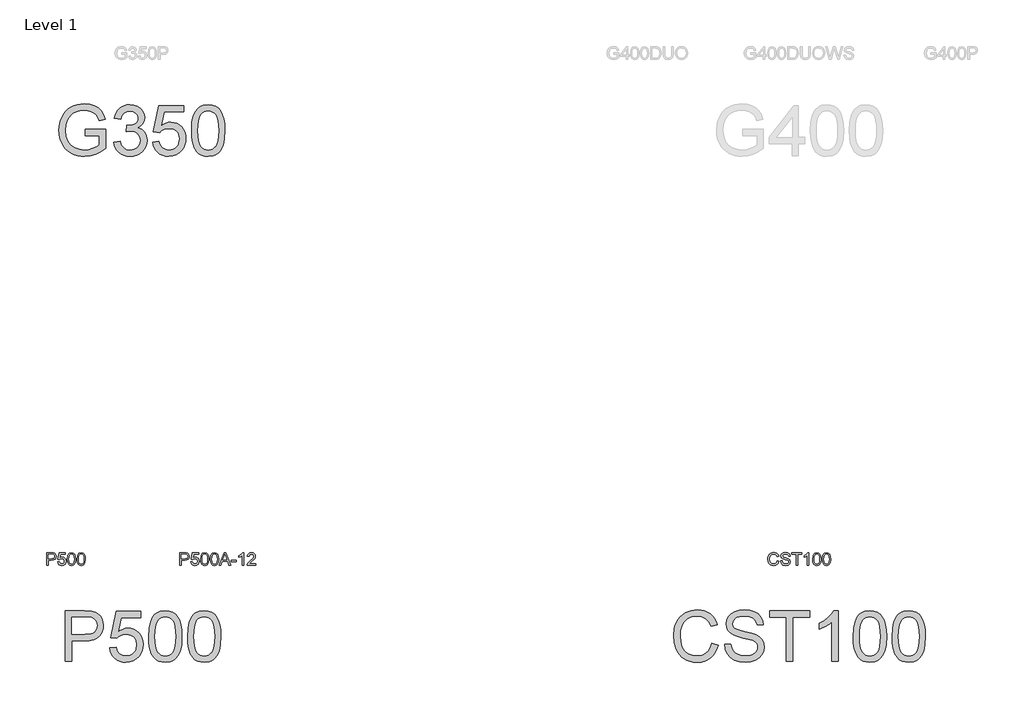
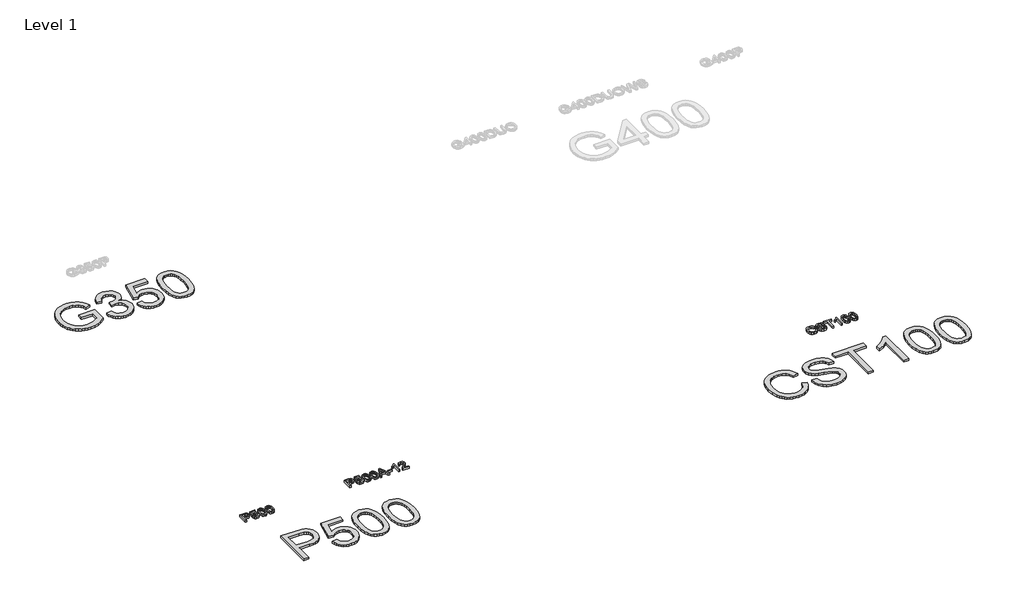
# One storey, part 3 of 5: 6 proxies.
"""IFC4 building model written with IfcOpenShell, lengths in millimetres."""

from ifc_helpers import new_model, si_unit, origin, origin_with_axes, place, context, project, spatial, polyline, outline, extrude, element, save

model = new_model("IFC4")

# Units and contexts
model_context = context("Model", 3, world=origin())
ifc_project = project(units=[si_unit("LENGTHUNIT", "METRE", prefix="MILLI")], contexts=[model_context])

# Site, building, storey
site = spatial("IfcSite", under=ifc_project)
building = spatial("IfcBuilding", under=site)
storey = spatial("IfcBuildingStorey", under=building, Name="Level 1", Elevation=0.0)

# Proxies
placement = place(None, origin())
element("IfcBuildingElementProxy", 1, Name="100mm Arial", ObjectType="100mm Arial", at=placement, inside=storey, context=model_context, shape_type="SweptSolid", body=[
    extrude(outline(polyline([(139.8337019, -11918.2513572), (139.8337019, -11817.795047), (177.0633598, -11817.795047), (192.0729452, -11818.7515402), (204.2743647, -11823.448167), (212.1838276, -11833.1602517), (215.1759345, -11846.8577247), (213.1556492, -11858.6973935), (207.0947934, -11868.5627624), (195.7609622, -11875.2214265), (177.9217511, -11877.4409812), (152.3907407, -11877.4409812), (152.3907407, -11918.2513572), (139.8337019, -11918.2513572)]), holes=[polyline([(152.3907407, -11864.8839424), (178.6575151, -11864.8839424), (197.1497168, -11860.2731548), (201.251601, -11854.724268), (202.6188958, -11847.2991831), (199.3937969, -11836.9003853), (190.9202483, -11831.2104771), (178.3632095, -11830.3520858), (152.3907407, -11830.3520858), (152.3907407, -11864.8839424)])]), origin_with_axes(), (0.0, 0.0, 1.0), 20.0),
    extrude(outline(polyline([(227.7329733, -11891.5676498), (240.2900121, -11889.99802), (246.6175824, -11902.9352035), (259.7387069, -11907.2639483), (268.739553, -11905.7586978), (275.4840563, -11901.2429463), (279.6963051, -11894.23786), (281.1003881, -11885.264605), (275.8396755, -11870.3531214), (269.233128, -11866.2512372), (259.9349106, -11864.8839424), (248.9107135, -11867.0667089), (241.8596419, -11872.7320917), (229.3026031, -11871.1624618), (240.2900121, -11819.3646769), (288.9485373, -11819.3646769), (288.9485373, -11831.9217157), (250.4435551, -11831.9217157), (245.072478, -11859.5864417), (254.0426673, -11854.1417882), (263.4420523, -11852.3269037), (275.1744222, -11854.5771152), (284.9140981, -11861.3277498), (291.4715946, -11871.6161829), (293.6574268, -11884.47979), (291.6892582, -11897.0368288), (285.7847521, -11907.7789831), (274.4785121, -11916.810486), (259.6896559, -11919.820987), (247.356412, -11917.8865409), (237.5308971, -11912.0832024), (230.7955909, -11903.0854219), (227.7329733, -11891.5676498)])), origin_with_axes(), (0.0, 0.0, 1.0), 20.0),
    extrude(outline(polyline([(304.6448357, -11868.8325425), (308.3359184, -11839.9292804), (319.2988019, -11823.264226), (337.6070625, -11817.795047), (352.2732914, -11821.0324086), (362.402309, -11830.3643485), (368.2884209, -11845.2267811), (370.5692893, -11868.8325425), (366.9149948, -11897.6131773), (355.9888995, -11914.3150198), (347.7575399, -11918.4444952), (337.6070625, -11919.820987), (324.5595144, -11917.4297541), (314.651226, -11910.2560552), (307.1464333, -11893.2660384), (304.6448357, -11868.8325425)]), holes=[polyline([(317.2018745, -11868.808017), (318.6734025, -11888.5602145), (323.0879864, -11899.9921475), (329.6608114, -11905.4459981), (337.6070625, -11907.2639483), (345.5533136, -11905.4398667), (352.1261386, -11899.967622), (356.5407225, -11888.5295577), (358.0122505, -11868.808017), (356.5897735, -11849.5003437), (352.3223423, -11837.9795058), (345.7617801, -11832.2589408), (337.4599097, -11830.3520858), (329.5994978, -11832.0320803), (323.2841902, -11837.0720636), (318.7224534, -11849.3102713), (317.2018745, -11868.808017)])]), origin_with_axes(), (0.0, 0.0, 1.0), 20.0),
    extrude(outline(polyline([(381.5566982, -11868.8325425), (385.2477809, -11839.9292804), (396.2106643, -11823.264226), (414.518925, -11817.795047), (429.1851538, -11821.0324086), (439.3141714, -11830.3643485), (445.2002834, -11845.2267811), (447.4811517, -11868.8325425), (443.8268573, -11897.6131773), (432.900762, -11914.3150198), (424.6694024, -11918.4444952), (414.518925, -11919.820987), (401.4713769, -11917.4297541), (391.5630885, -11910.2560552), (384.0582958, -11893.2660384), (381.5566982, -11868.8325425)]), holes=[polyline([(394.113737, -11868.808017), (395.585265, -11888.5602145), (399.9998489, -11899.9921475), (406.5726739, -11905.4459981), (414.518925, -11907.2639483), (422.4651761, -11905.4398667), (429.038001, -11899.967622), (433.452585, -11888.5295577), (434.924113, -11868.808017), (433.5016359, -11849.5003437), (429.2342048, -11837.9795058), (422.6736425, -11832.2589408), (414.3717722, -11830.3520858), (406.5113602, -11832.0320803), (400.1960526, -11837.0720636), (395.6343159, -11849.3102713), (394.113737, -11868.808017)])]), origin_with_axes(), (0.0, 0.0, 1.0), 20.0),
])
element("IfcBuildingElementProxy", 2, Name="100mm Arial", ObjectType="100mm Arial", at=placement, inside=storey, context=model_context, shape_type="SweptSolid", body=[
    extrude(outline(polyline([(1193.0733113, -11918.2513572), (1193.0733113, -11817.795047), (1230.3029692, -11817.795047), (1245.3125546, -11818.7515402), (1257.5139741, -11823.448167), (1265.423437, -11833.1602517), (1268.4155439, -11846.8577247), (1266.3952586, -11858.6973935), (1260.3344027, -11868.5627624), (1249.0005716, -11875.2214265), (1231.1613605, -11877.4409812), (1205.6303501, -11877.4409812), (1205.6303501, -11918.2513572), (1193.0733113, -11918.2513572)]), holes=[polyline([(1205.6303501, -11864.8839424), (1231.8971245, -11864.8839424), (1250.3893261, -11860.2731548), (1254.4912104, -11854.724268), (1255.8585051, -11847.2991831), (1252.6334063, -11836.9003853), (1244.1598577, -11831.2104771), (1231.6028189, -11830.3520858), (1205.6303501, -11830.3520858), (1205.6303501, -11864.8839424)])]), origin_with_axes(), (0.0, 0.0, 1.0), 20.0),
    extrude(outline(polyline([(1280.9725827, -11891.5676498), (1293.5296214, -11889.99802), (1299.8571918, -11902.9352035), (1312.9783163, -11907.2639483), (1321.9791624, -11905.7586978), (1328.7236657, -11901.2429463), (1332.9359145, -11894.23786), (1334.3399974, -11885.264605), (1329.0792849, -11870.3531214), (1322.4727374, -11866.2512372), (1313.17452, -11864.8839424), (1302.1503229, -11867.0667089), (1295.0992513, -11872.7320917), (1282.5422125, -11871.1624618), (1293.5296214, -11819.3646769), (1342.1881467, -11819.3646769), (1342.1881467, -11831.9217157), (1303.6831645, -11831.9217157), (1298.3120874, -11859.5864417), (1307.2822767, -11854.1417882), (1316.6816617, -11852.3269037), (1328.4140316, -11854.5771152), (1338.1537075, -11861.3277498), (1344.711204, -11871.6161829), (1346.8970362, -11884.47979), (1344.9288675, -11897.0368288), (1339.0243615, -11907.7789831), (1327.7181215, -11916.810486), (1312.9292653, -11919.820987), (1300.5960214, -11917.8865409), (1290.7705065, -11912.0832024), (1284.0352003, -11903.0854219), (1280.9725827, -11891.5676498)])), origin_with_axes(), (0.0, 0.0, 1.0), 20.0),
    extrude(outline(polyline([(1357.8844451, -11868.8325425), (1361.5755278, -11839.9292804), (1372.5384113, -11823.264226), (1390.8466719, -11817.795047), (1405.5129008, -11821.0324086), (1415.6419184, -11830.3643485), (1421.5280303, -11845.2267811), (1423.8088987, -11868.8325425), (1420.1546042, -11897.6131773), (1409.2285089, -11914.3150198), (1400.9971493, -11918.4444952), (1390.8466719, -11919.820987), (1377.7991238, -11917.4297541), (1367.8908354, -11910.2560552), (1360.3860427, -11893.2660384), (1357.8844451, -11868.8325425)]), holes=[polyline([(1370.4414839, -11868.808017), (1371.9130119, -11888.5602145), (1376.3275958, -11899.9921475), (1382.9004208, -11905.4459981), (1390.8466719, -11907.2639483), (1398.792923, -11905.4398667), (1405.365748, -11899.967622), (1409.7803319, -11888.5295577), (1411.2518599, -11868.808017), (1409.8293829, -11849.5003437), (1405.5619517, -11837.9795058), (1399.0013895, -11832.2589408), (1390.6995191, -11830.3520858), (1382.8391071, -11832.0320803), (1376.5237996, -11837.0720636), (1371.9620628, -11849.3102713), (1370.4414839, -11868.808017)])]), origin_with_axes(), (0.0, 0.0, 1.0), 20.0),
    extrude(outline(polyline([(1434.7963076, -11868.8325425), (1438.4873903, -11839.9292804), (1449.4502737, -11823.264226), (1467.7585344, -11817.795047), (1482.4247632, -11821.0324086), (1492.5537808, -11830.3643485), (1498.4398928, -11845.2267811), (1500.7207611, -11868.8325425), (1497.0664666, -11897.6131773), (1486.1403714, -11914.3150198), (1477.9090117, -11918.4444952), (1467.7585344, -11919.820987), (1454.7109863, -11917.4297541), (1444.8026979, -11910.2560552), (1437.2979052, -11893.2660384), (1434.7963076, -11868.8325425)]), holes=[polyline([(1447.3533464, -11868.808017), (1448.8248743, -11888.5602145), (1453.2394583, -11899.9921475), (1459.8122833, -11905.4459981), (1467.7585344, -11907.2639483), (1475.7047855, -11905.4398667), (1482.2776104, -11899.967622), (1486.6921944, -11888.5295577), (1488.1637224, -11868.808017), (1486.7412453, -11849.5003437), (1482.4738142, -11837.9795058), (1475.9132519, -11832.2589408), (1467.6113816, -11830.3520858), (1459.7509696, -11832.0320803), (1453.435662, -11837.0720636), (1448.8739253, -11849.3102713), (1447.3533464, -11868.808017)])]), origin_with_axes(), (0.0, 0.0, 1.0), 20.0),
    extrude(outline(polyline([(1504.7184121, -11918.2513572), (1544.8175496, -11817.795047), (1555.5106529, -11817.795047), (1595.6097904, -11918.2513572), (1582.3415131, -11918.2513572), (1570.8390694, -11886.8587603), (1529.4646077, -11886.8587603), (1517.9866894, -11918.2513572), (1504.7184121, -11918.2513572)]), holes=[polyline([(1534.0753954, -11874.3017215), (1566.2528072, -11874.3017215), (1557.2029101, -11849.6045769), (1550.1641013, -11830.3520858), (1543.9101074, -11847.4463359), (1534.0753954, -11874.3017215)])]), origin_with_axes(), (0.0, 0.0, 1.0), 20.0),
    extrude(outline(polyline([(1601.1770713, -11888.4283901), (1601.1770713, -11875.8713513), (1640.4178174, -11875.8713513), (1640.4178174, -11888.4283901), (1601.1770713, -11888.4283901)])), origin_with_axes(), (0.0, 0.0, 1.0), 20.0),
    extrude(outline(polyline([(1698.4941217, -11918.2513572), (1685.937083, -11918.2513572), (1685.937083, -11839.9660686), (1674.0422318, -11848.4396172), (1660.8230054, -11854.7794503), (1660.8230054, -11842.9091246), (1679.2293679, -11831.1614262), (1690.4007178, -11817.795047), (1698.4941217, -11817.795047), (1698.4941217, -11918.2513572)])), origin_with_axes(), (0.0, 0.0, 1.0), 20.0),
    extrude(outline(polyline([(1792.6719125, -11905.6943184), (1792.6719125, -11918.2513572), (1726.747459, -11918.2513572), (1728.0963596, -11909.5938676), (1735.7237797, -11896.2642766), (1751.4446036, -11881.7084123), (1773.1251158, -11860.7881895), (1778.5452439, -11846.5634191), (1773.4316842, -11835.0487126), (1760.0775677, -11830.3520858), (1746.1593656, -11834.938348), (1740.8741276, -11847.6180141), (1728.3170888, -11846.0483843), (1731.3613123, -11833.9021471), (1737.9433344, -11825.0300596), (1747.7197984, -11819.6038002), (1760.3473479, -11817.795047), (1773.0668678, -11819.8061353), (1782.8249378, -11825.8394), (1789.0329464, -11834.8525089), (1791.1022827, -11845.8031296), (1788.8704652, -11857.7102435), (1781.4515117, -11870.0220276), (1763.4620821, -11887.2266423), (1749.0165824, -11899.3054344), (1743.3511997, -11905.6943184), (1792.6719125, -11905.6943184)])), origin_with_axes(), (0.0, 0.0, 1.0), 20.0),
])
element("IfcBuildingElementProxy", 3, Name="100mm Arial", ObjectType="100mm Arial", at=placement, inside=storey, context=model_context, shape_type="SweptSolid", body=[
    extrude(outline(polyline([(5917.8588841, -11882.5422782), (5930.4159228, -11885.7796398), (5924.6217814, -11900.4121461), (5915.5289648, -11911.1021838), (5903.5850626, -11917.6412862), (5889.2376648, -11919.820987), (5874.6726035, -11918.1716494), (5863.1057804, -11913.2236366), (5854.2398244, -11905.1486268), (5847.777364, -11894.1182983), (5842.5166515, -11867.2629127), (5844.0035078, -11852.6150779), (5848.464077, -11839.9660686), (5855.6653671, -11829.7174894), (5865.3743861, -11822.2709446), (5876.8890925, -11817.7367991), (5889.507445, -11816.2254172), (5903.2754286, -11818.1813231), (5914.6583107, -11824.049041), (5923.3004719, -11833.46682), (5928.846293, -11846.0729097), (5916.2892542, -11849.0650166), (5905.9885584, -11833.6262356), (5889.0169356, -11828.782456), (5869.3720371, -11834.1535331), (5858.2742636, -11848.5745073), (5855.0736902, -11867.2383872), (5858.8628748, -11888.8698485), (5870.6596241, -11902.6899488), (5887.9868661, -11907.2639483), (5898.4684372, -11905.7065812), (5907.2025689, -11901.0344798), (5913.7968537, -11893.2966952), (5917.8588841, -11882.5422782)])), origin_with_axes(), (0.0, 0.0, 1.0), 20.0),
    extrude(outline(polyline([(5942.9729616, -11883.7195006), (5955.5300004, -11883.7195006), (5959.5767023, -11896.2888021), (5969.4604653, -11904.2350532), (5984.5191016, -11907.2639483), (5997.6402261, -11904.9708172), (6006.1137747, -11898.6677723), (6008.8974151, -11890.2432746), (6006.8127505, -11882.4073881), (5998.2778882, -11876.7052172), (5979.994153, -11871.9104885), (5960.3124663, -11865.7178083), (5949.6316257, -11856.3736056), (5946.1122213, -11843.8901432), (5950.4654916, -11829.6776355), (5963.1819459, -11819.6467198), (5981.7967748, -11816.2254172), (6001.6624026, -11819.8061353), (6014.9061544, -11830.3275603), (6019.8848241, -11846.0483843), (6007.3277853, -11846.0483843), (6005.0223915, -11838.5558543), (6000.2154, -11833.147989), (5982.2872842, -11828.782456), (5964.3101173, -11833.098938), (5958.6692601, -11843.5222612), (5962.6669111, -11852.2288018), (5983.1702009, -11859.2430852), (6005.3902734, -11865.54613), (6017.542642, -11875.7241985), (6021.4544539, -11889.9244436), (6016.9540308, -11904.9462917), (6004.0045846, -11915.9091752), (5985.0096109, -11919.820987), (5962.5810719, -11915.6026068), (5948.3930897, -11902.8984153), (5942.9729616, -11883.7195006)])), origin_with_axes(), (0.0, 0.0, 1.0), 20.0),
    extrude(outline(polyline([(6065.4040896, -11918.2513572), (6065.4040896, -11830.3520858), (6032.4418628, -11830.3520858), (6032.4418628, -11817.795047), (6110.9233551, -11817.795047), (6110.9233551, -11830.3520858), (6077.9611284, -11830.3520858), (6077.9611284, -11918.2513572), (6065.4040896, -11918.2513572)])), origin_with_axes(), (0.0, 0.0, 1.0), 20.0),
    extrude(outline(polyline([(6167.4300296, -11918.2513572), (6154.8729908, -11918.2513572), (6154.8729908, -11839.9660686), (6142.9781396, -11848.4396172), (6129.7589133, -11854.7794503), (6129.7589133, -11842.9091246), (6148.1652758, -11831.1614262), (6159.3366257, -11817.795047), (6167.4300296, -11817.795047), (6167.4300296, -11918.2513572)])), origin_with_axes(), (0.0, 0.0, 1.0), 20.0),
    extrude(outline(polyline([(6197.2529967, -11868.8325425), (6200.9440794, -11839.9292804), (6211.9069628, -11823.264226), (6230.2152234, -11817.795047), (6244.8814523, -11821.0324086), (6255.0104699, -11830.3643485), (6260.8965818, -11845.2267811), (6263.1774502, -11868.8325425), (6259.5231557, -11897.6131773), (6248.5970605, -11914.3150198), (6240.3657008, -11918.4444952), (6230.2152234, -11919.820987), (6217.1676753, -11917.4297541), (6207.2593869, -11910.2560552), (6199.7545942, -11893.2660384), (6197.2529967, -11868.8325425)]), holes=[polyline([(6209.8100354, -11868.808017), (6211.2815634, -11888.5602145), (6215.6961474, -11899.9921475), (6222.2689723, -11905.4459981), (6230.2152234, -11907.2639483), (6238.1614745, -11905.4398667), (6244.7342995, -11899.967622), (6249.1488835, -11888.5295577), (6250.6204114, -11868.808017), (6249.1979344, -11849.5003437), (6244.9305032, -11837.9795058), (6238.369941, -11832.2589408), (6230.0680706, -11830.3520858), (6222.2076587, -11832.0320803), (6215.8923511, -11837.0720636), (6211.3306143, -11849.3102713), (6209.8100354, -11868.808017)])]), origin_with_axes(), (0.0, 0.0, 1.0), 20.0),
    extrude(outline(polyline([(6274.1648591, -11868.8325425), (6277.8559418, -11839.9292804), (6288.8188253, -11823.264226), (6307.1270859, -11817.795047), (6321.7933148, -11821.0324086), (6331.9223324, -11830.3643485), (6337.8084443, -11845.2267811), (6340.0893127, -11868.8325425), (6336.4350182, -11897.6131773), (6325.5089229, -11914.3150198), (6317.2775633, -11918.4444952), (6307.1270859, -11919.820987), (6294.0795378, -11917.4297541), (6284.1712494, -11910.2560552), (6276.6664567, -11893.2660384), (6274.1648591, -11868.8325425)]), holes=[polyline([(6286.7218979, -11868.808017), (6288.1934259, -11888.5602145), (6292.6080098, -11899.9921475), (6299.1808348, -11905.4459981), (6307.1270859, -11907.2639483), (6315.073337, -11905.4398667), (6321.646162, -11899.967622), (6326.0607459, -11888.5295577), (6327.5322739, -11868.808017), (6326.1097968, -11849.5003437), (6321.8423657, -11837.9795058), (6315.2818035, -11832.2589408), (6306.9799331, -11830.3520858), (6299.1195211, -11832.0320803), (6292.8042135, -11837.0720636), (6288.2424768, -11849.3102713), (6286.7218979, -11868.808017)])]), origin_with_axes(), (0.0, 0.0, 1.0), 20.0),
])
element("IfcBuildingElementProxy", 4, Name="400mm Arial", ObjectType="400mm Arial", at=placement, inside=storey, context=model_context, shape_type="SweptSolid", body=[
    extrude(outline(polyline([(287.7803062, -12678.2513572), (287.7803062, -12276.4261166), (436.6989379, -12276.4261166), (496.7372795, -12280.2520893), (523.506826, -12287.4012628), (545.5429575, -12299.0385966), (563.2871324, -12315.6913882), (577.1808091, -12337.8869353), (586.1571298, -12364.0678706), (589.1492367, -12392.6768271), (587.1289514, -12417.3433148), (581.0680955, -12440.0355026), (570.9666691, -12460.7533903), (556.824672, -12479.4969779), (537.4096997, -12495.0338609), (511.4893475, -12506.1316344), (479.0636153, -12512.7902985), (440.1325032, -12515.0098532), (338.0084613, -12515.0098532), (338.0084613, -12678.2513572), (287.7803062, -12678.2513572)]), holes=[polyline([(338.0084613, -12464.7816981), (443.0755591, -12464.7816981), (487.613806, -12460.1709105), (504.2175467, -12454.4074259), (517.0443656, -12446.3385474), (526.6154289, -12436.178873), (533.4519026, -12424.1430004), (538.9210816, -12394.4426606), (535.6959828, -12371.8792316), (526.0206863, -12352.8474697), (511.09694, -12338.5245974), (492.1264918, -12330.087837), (441.8983367, -12326.6542717), (338.0084613, -12326.6542717), (338.0084613, -12464.7816981)])]), origin_with_axes(), (0.0, 0.0, 1.0), 20.0),
    extrude(outline(polyline([(639.3773918, -12571.5165277), (689.6055468, -12565.2380083), (698.8271222, -12595.3920691), (714.9158281, -12616.9867423), (737.7980882, -12629.9729767), (767.4003261, -12634.3017215), (786.5301898, -12632.796471), (803.4037107, -12628.2807195), (818.0208886, -12620.754467), (830.3817237, -12610.2177136), (840.2103043, -12597.1916252), (847.230719, -12582.1973683), (852.8470508, -12546.3043483), (847.5863383, -12512.5082556), (841.0104476, -12498.5900535), (831.8042007, -12486.6584141), (819.9369407, -12477.0873509), (805.3780107, -12470.2508771), (768.185141, -12464.7816981), (743.8190902, -12466.9644646), (724.0883525, -12473.5127641), (708.3307404, -12483.5436799), (695.8840662, -12496.174295), (645.6559111, -12489.8957757), (689.6055468, -12282.704636), (884.2396477, -12282.704636), (884.2396477, -12332.9327911), (730.2197191, -12332.9327911), (708.7354106, -12443.5916952), (726.4611914, -12430.8875036), (744.6161678, -12421.8130811), (763.20034, -12416.3684276), (782.2137078, -12414.553543), (806.6747947, -12416.8037546), (829.1431876, -12423.5543892), (849.6188863, -12434.8054469), (868.1018909, -12450.5569276), (883.4027162, -12469.8462069), (894.3318771, -12491.7106602), (900.8893737, -12516.1502874), (903.0752059, -12543.1650886), (901.1070372, -12569.1866084), (895.2025312, -12593.3932436), (885.3616878, -12615.7849944), (871.5845071, -12636.3618607), (850.7133353, -12657.4353676), (826.3595472, -12672.4878726), (798.5231429, -12681.5193756), (767.2041223, -12684.5298766), (741.2837701, -12682.5954304), (717.8711468, -12676.7920919), (696.9662524, -12667.1198612), (678.569087, -12653.578738), (663.2621303, -12636.843173), (651.6278622, -12617.5876162), (643.6662827, -12595.8120678), (639.3773918, -12571.5165277)])), origin_with_axes(), (0.0, 0.0, 1.0), 20.0),
    extrude(outline(polyline([(947.0248416, -12480.5760984), (950.7159243, -12416.258063), (961.7891723, -12364.9630501), (980.1342212, -12325.9062449), (991.9922841, -12310.6728647), (1005.6407062, -12298.3028326), (1021.1254725, -12288.7317693), (1038.4925683, -12281.8952956), (1078.8737487, -12276.4261166), (1109.8248872, -12279.6634782), (1137.5386642, -12289.3755628), (1160.7152299, -12305.1822259), (1178.0547346, -12326.7033226), (1191.1513336, -12353.754912), (1201.5991823, -12386.153053), (1208.4417874, -12427.2945228), (1210.7226557, -12480.5760984), (1207.0683612, -12544.5262519), (1196.1054778, -12595.6986375), (1177.8707936, -12634.7922308), (1166.0403217, -12650.0715964), (1152.4010968, -12662.5060078), (1136.8979364, -12672.1414504), (1119.4756582, -12679.0239094), (1078.8737487, -12684.5298766), (1051.2090226, -12682.1386436), (1026.6835563, -12674.9649447), (1005.2973496, -12663.0087799), (987.0504027, -12646.2701491), (969.5392197, -12616.011855), (957.0312319, -12578.3100818), (949.5264392, -12533.1648297), (947.0248416, -12480.5760984)]), holes=[polyline([(997.2529967, -12480.4779966), (998.7245246, -12524.1425237), (1003.1391086, -12559.4867864), (1010.4967485, -12586.5107846), (1020.7974444, -12605.2145184), (1033.2563813, -12617.9401698), (1047.0887443, -12627.0299207), (1062.2945334, -12632.4837713), (1078.8737487, -12634.3017215), (1095.4529639, -12632.4776399), (1110.658753, -12627.0053953), (1124.4911161, -12617.8849875), (1136.950053, -12605.1164166), (1147.2507488, -12586.3820259), (1154.6083887, -12559.3641591), (1159.0229727, -12524.062816), (1160.4945007, -12480.4779966), (1159.0720236, -12437.969232), (1154.8045925, -12403.2473031), (1147.6922072, -12376.3122097), (1137.7348679, -12357.1639518), (1125.4843975, -12343.8159667), (1111.4926189, -12334.2816917), (1095.7595322, -12328.5611267), (1078.2851375, -12326.6542717), (1061.7917614, -12328.3342661), (1046.8434896, -12333.3742494), (1033.4403223, -12341.7742217), (1021.5822593, -12353.5341828), (1010.9382069, -12374.3808292), (1003.3353123, -12402.4870136), (998.7735756, -12437.8527361), (997.2529967, -12480.4779966)])]), origin_with_axes(), (0.0, 0.0, 1.0), 20.0),
    extrude(outline(polyline([(1254.6722914, -12480.5760984), (1258.3633741, -12416.258063), (1269.4366222, -12364.9630501), (1287.781671, -12325.9062449), (1299.639734, -12310.6728647), (1313.288156, -12298.3028326), (1328.7729223, -12288.7317693), (1346.1400182, -12281.8952956), (1386.5211985, -12276.4261166), (1417.472337, -12279.6634782), (1445.186114, -12289.3755628), (1468.3626797, -12305.1822259), (1485.7021844, -12326.7033226), (1498.7987834, -12353.754912), (1509.2466321, -12386.153053), (1516.0892372, -12427.2945228), (1518.3701056, -12480.5760984), (1514.7158111, -12544.5262519), (1503.7529276, -12595.6986375), (1485.5182434, -12634.7922308), (1473.6877716, -12650.0715964), (1460.0485466, -12662.5060078), (1444.5453862, -12672.1414504), (1427.123108, -12679.0239094), (1386.5211985, -12684.5298766), (1358.8564725, -12682.1386436), (1334.3310061, -12674.9649447), (1312.9447995, -12663.0087799), (1294.6978525, -12646.2701491), (1277.1866695, -12616.011855), (1264.6786817, -12578.3100818), (1257.173889, -12533.1648297), (1254.6722914, -12480.5760984)]), holes=[polyline([(1304.9004465, -12480.4779966), (1306.3719745, -12524.1425237), (1310.7865584, -12559.4867864), (1318.1441983, -12586.5107846), (1328.4448942, -12605.2145184), (1340.9038311, -12617.9401698), (1354.7361941, -12627.0299207), (1369.9419832, -12632.4837713), (1386.5211985, -12634.3017215), (1403.1004137, -12632.4776399), (1418.3062029, -12627.0053953), (1432.1385659, -12617.8849875), (1444.5975028, -12605.1164166), (1454.8981987, -12586.3820259), (1462.2558386, -12559.3641591), (1466.6704225, -12524.062816), (1468.1419505, -12480.4779966), (1466.7194734, -12437.969232), (1462.4520423, -12403.2473031), (1455.3396571, -12376.3122097), (1445.3823177, -12357.1639518), (1433.1318473, -12343.8159667), (1419.1400687, -12334.2816917), (1403.4069821, -12328.5611267), (1385.9325873, -12326.6542717), (1369.4392112, -12328.3342661), (1354.4909394, -12333.3742494), (1341.0877721, -12341.7742217), (1329.2297091, -12353.5341828), (1318.5856567, -12374.3808292), (1310.9827622, -12402.4870136), (1306.4210254, -12437.8527361), (1304.9004465, -12480.4779966)])]), origin_with_axes(), (0.0, 0.0, 1.0), 20.0),
])
element("IfcBuildingElementProxy", 5, Name="400mm Arial", ObjectType="400mm Arial", at=placement, inside=storey, context=model_context, shape_type="SweptSolid", body=[
    extrude(outline(polyline([(444.7432908, -8521.2883726), (444.7432908, -8471.0602175), (607.9847948, -8471.0602175), (607.9847948, -8621.2541734), (568.314853, -8648.845323), (527.3941124, -8668.6373744), (485.3206749, -8680.556751), (442.1926423, -8684.5298766), (413.3414969, -8682.9510497), (385.8453834, -8678.214569), (359.704302, -8670.3204345), (334.9182525, -8659.2686462), (312.2873785, -8645.2247511), (292.6118231, -8628.3542959), (275.8915864, -8608.6572808), (262.1266684, -8586.1337056), (251.3753171, -8561.504006), (243.6957805, -8535.4886176), (239.0880585, -8508.0875403), (237.5521512, -8479.3007742), (243.671255, -8422.7082606), (251.3201348, -8395.8927288), (262.0285666, -8370.0643471), (275.6064779, -8346.3574182), (291.8637964, -8325.9062449), (310.8005221, -8308.7108274), (332.416655, -8294.7711654), (356.2431455, -8283.9983543), (381.8109442, -8276.3034893), (409.120051, -8271.6865702), (438.1704659, -8270.1475972), (479.5449276, -8273.7160526), (516.75006, -8284.4214186), (548.0813433, -8301.4911432), (571.8342574, -8324.1526741), (589.4067541, -8353.4973946), (602.1967848, -8390.6166879), (555.8927043, -8403.664236), (545.5552203, -8377.1889951), (532.9859188, -8357.2130027), (516.3576526, -8342.1543664), (493.8432745, -8330.4311935), (467.0001516, -8322.8896126), (437.3856509, -8320.3757523), (402.7189043, -8323.0858163), (373.0798782, -8331.2160084), (348.5789373, -8343.7485217), (329.3264462, -8359.6655494), (314.5498528, -8378.1454883), (303.4766047, -8398.3667353), (291.7043808, -8436.2831062), (287.7803062, -8477.240635), (292.5014585, -8525.2737609), (306.6649153, -8564.7965499), (329.841481, -8595.5269592), (361.6019599, -8617.182946), (398.7703042, -8630.0220276), (438.1704659, -8634.3017215), (472.9598399, -8631.0766227), (506.8908226, -8621.4013262), (536.3581704, -8608.0717352), (557.7566398, -8593.883753), (557.7566398, -8521.2883726), (444.7432908, -8521.2883726)])), origin_with_axes(), (0.0, 0.0, 1.0), 20.0),
    extrude(outline(polyline([(670.7699887, -8571.5165277), (720.9981438, -8565.2380083), (732.2430701, -8596.8022835), (748.7119207, -8618.1149137), (771.2140361, -8630.2550196), (800.5587566, -8634.3017215), (834.9925113, -8628.7344406), (849.2663327, -8621.7753396), (861.5781168, -8612.0325981), (878.574265, -8587.1147243), (884.2396477, -8556.8993497), (878.623316, -8528.2168168), (861.7743206, -8504.954412), (836.2678356, -8489.5401564), (804.6790349, -8484.4020712), (769.4604653, -8489.8957757), (775.0522716, -8439.6676206), (783.0966245, -8440.2562318), (813.1893717, -8436.6509882), (840.0938083, -8425.8352576), (851.1670564, -8417.6560145), (859.0765193, -8407.5392597), (863.822197, -8395.484993), (865.4040896, -8381.4932144), (860.8178274, -8359.8004394), (847.0590408, -8342.2034173), (826.0652416, -8330.5415581), (799.7739417, -8326.6542717), (773.4335908, -8330.5783463), (751.9002313, -8342.3505701), (736.1794074, -8361.9709432), (727.2766631, -8389.4394655), (677.0485081, -8383.1609461), (683.002065, -8359.1811714), (691.8373643, -8338.0586135), (703.5544058, -8319.7932725), (718.1531897, -8304.3851482), (735.1738633, -8292.1530719), (754.1565743, -8283.4158745), (775.1013225, -8278.1735561), (798.0081081, -8276.4261166), (829.584646, -8279.8719446), (858.58601, -8290.2094287), (883.0378999, -8306.5188638), (900.9660158, -8327.880545), (911.9656875, -8352.4918505), (915.6322447, -8378.5501585), (912.1496284, -8402.8303701), (901.7017798, -8424.8542389), (884.4358515, -8443.6162207), (860.4989963, -8458.1107713), (891.9406442, -8470.8149628), (915.2398372, -8492.4464242), (929.6608114, -8521.8279328), (934.4678028, -8557.7822665), (932.0643071, -8583.264226), (924.85382, -8606.7350973), (912.8363415, -8628.1948804), (896.0118716, -8647.6435752), (875.5147131, -8663.781332), (852.4791688, -8675.3083012), (826.9052388, -8682.2244827), (798.792923, -8684.5298766), (773.3845399, -8682.5617079), (750.2324996, -8676.6572019), (729.3368023, -8666.8163585), (710.6974479, -8653.0391778), (695.0685945, -8636.1350001), (683.2044001, -8616.9131659), (675.1048649, -8595.373675), (670.7699887, -8571.5165277)])), origin_with_axes(), (0.0, 0.0, 1.0), 20.0),
    extrude(outline(polyline([(978.4174385, -8571.5165277), (1028.6455936, -8565.2380083), (1037.8671689, -8595.3920691), (1053.9558749, -8616.9867423), (1076.838135, -8629.9729767), (1106.4403728, -8634.3017215), (1125.5702366, -8632.796471), (1142.4437574, -8628.2807195), (1157.0609354, -8620.754467), (1169.4217704, -8610.2177136), (1179.250351, -8597.1916252), (1186.2707658, -8582.1973683), (1191.8870976, -8546.3043483), (1186.626385, -8512.5082556), (1180.0504944, -8498.5900535), (1170.8442475, -8486.6584141), (1158.9769874, -8477.0873509), (1144.4180575, -8470.2508771), (1107.2251878, -8464.7816981), (1082.8591369, -8466.9644646), (1063.1283993, -8473.5127641), (1047.3707871, -8483.5436799), (1034.924113, -8496.174295), (984.6959579, -8489.8957757), (1028.6455936, -8282.704636), (1223.2796945, -8282.704636), (1223.2796945, -8332.9327911), (1069.2597659, -8332.9327911), (1047.7754573, -8443.5916952), (1065.5012381, -8430.8875036), (1083.6562146, -8421.8130811), (1102.2403867, -8416.3684276), (1121.2537545, -8414.553543), (1145.7148415, -8416.8037546), (1168.1832344, -8423.5543892), (1188.6589331, -8434.8054469), (1207.1419376, -8450.5569276), (1222.442763, -8469.8462069), (1233.3719239, -8491.7106602), (1239.9294205, -8516.1502874), (1242.1152527, -8543.1650886), (1240.147084, -8569.1866084), (1234.242578, -8593.3932436), (1224.4017346, -8615.7849944), (1210.6245539, -8636.3618607), (1189.753382, -8657.4353676), (1165.3995939, -8672.4878726), (1137.5631896, -8681.5193756), (1106.2441691, -8684.5298766), (1080.3238169, -8682.5954304), (1056.9111936, -8676.7920919), (1036.0062992, -8667.1198612), (1017.6091337, -8653.578738), (1002.302177, -8636.843173), (990.667909, -8617.5876162), (982.7063294, -8595.8120678), (978.4174385, -8571.5165277)])), origin_with_axes(), (0.0, 0.0, 1.0), 20.0),
    extrude(outline(polyline([(1286.0648883, -8480.5760984), (1289.755971, -8416.258063), (1300.8292191, -8364.9630501), (1319.1742679, -8325.9062449), (1331.0323309, -8310.6728647), (1344.6807529, -8298.3028326), (1360.1655192, -8288.7317693), (1377.5326151, -8281.8952956), (1417.9137954, -8276.4261166), (1448.8649339, -8279.6634782), (1476.5787109, -8289.3755628), (1499.7552766, -8305.1822259), (1517.0947813, -8326.7033226), (1530.1913803, -8353.754912), (1540.639229, -8386.153053), (1547.4818341, -8427.2945228), (1549.7627025, -8480.5760984), (1546.108408, -8544.5262519), (1535.1455245, -8595.6986375), (1516.9108403, -8634.7922308), (1505.0803685, -8650.0715964), (1491.4411435, -8662.5060078), (1475.9379831, -8672.1414504), (1458.515705, -8679.0239094), (1417.9137954, -8684.5298766), (1390.2490694, -8682.1386436), (1365.723603, -8674.9649447), (1344.3373964, -8663.0087799), (1326.0904494, -8646.2701491), (1308.5792665, -8616.011855), (1296.0712786, -8578.3100818), (1288.5664859, -8533.1648297), (1286.0648883, -8480.5760984)]), holes=[polyline([(1336.2930434, -8480.4779966), (1337.7645714, -8524.1425237), (1342.1791553, -8559.4867864), (1349.5367952, -8586.5107846), (1359.8374911, -8605.2145184), (1372.296428, -8617.9401698), (1386.128791, -8627.0299207), (1401.3345802, -8632.4837713), (1417.9137954, -8634.3017215), (1434.4930107, -8632.4776399), (1449.6987998, -8627.0053953), (1463.5311628, -8617.8849875), (1475.9900997, -8605.1164166), (1486.2907956, -8586.3820259), (1493.6484355, -8559.3641591), (1498.0630194, -8524.062816), (1499.5345474, -8480.4779966), (1498.1120704, -8437.969232), (1493.8446392, -8403.2473031), (1486.732254, -8376.3122097), (1476.7749146, -8357.1639518), (1464.5244442, -8343.8159667), (1450.5326657, -8334.2816917), (1434.799579, -8328.5611267), (1417.3251842, -8326.6542717), (1400.8318081, -8328.3342661), (1385.8835364, -8333.3742494), (1372.480369, -8341.7742217), (1360.622306, -8353.5341828), (1349.9782536, -8374.3808292), (1342.3753591, -8402.4870136), (1337.8136223, -8437.8527361), (1336.2930434, -8480.4779966)])]), origin_with_axes(), (0.0, 0.0, 1.0), 20.0),
])
element("IfcBuildingElementProxy", 6, Name="400mm Arial", ObjectType="400mm Arial", at=placement, inside=storey, context=model_context, shape_type="SweptSolid", body=[
    extrude(outline(polyline([(5399.8810349, -12535.4150412), (5450.1091899, -12548.3644874), (5440.1702447, -12579.6007345), (5426.9326242, -12606.8945129), (5410.3963285, -12630.2458225), (5390.5613576, -12649.6546634), (5367.8753013, -12664.9125692), (5342.7857492, -12675.8110733), (5315.2927014, -12682.3501758), (5285.396158, -12684.5298766), (5254.7669162, -12682.880539), (5227.1359127, -12677.9325261), (5202.5031474, -12669.6858381), (5180.8686204, -12658.1404748), (5161.9349604, -12643.4681145), (5145.4047961, -12625.8404356), (5131.2781274, -12605.257438), (5119.5549545, -12581.7191217), (5103.7728169, -12529.8477603), (5098.5121044, -12474.2975791), (5104.45953, -12415.70624), (5111.893812, -12389.4088087), (5122.3018068, -12365.1102029), (5135.4505224, -12343.2120271), (5151.106967, -12324.1158859), (5169.2711405, -12307.8217792), (5189.9430429, -12294.329707), (5212.4206328, -12283.750034), (5236.0018687, -12276.1931247), (5286.4752785, -12270.1475972), (5315.2037966, -12272.1035031), (5341.5472132, -12277.971221), (5365.5055281, -12287.7507507), (5387.0787414, -12301.4420923), (5405.9112339, -12318.6834951), (5421.6473862, -12339.1132086), (5434.2871985, -12362.7312327), (5443.8306705, -12389.5375674), (5393.6025155, -12401.505995), (5376.1894344, -12364.877211), (5352.399732, -12339.7508707), (5321.9391028, -12325.2195319), (5284.5132412, -12320.3757523), (5241.3729459, -12325.7468294), (5222.6906719, -12332.4606758), (5205.933647, -12341.8600608), (5179.0414731, -12367.0231893), (5161.5425529, -12399.5439576), (5151.9408328, -12436.3076317), (5148.7402595, -12474.1994772), (5152.529444, -12520.6016595), (5163.8969977, -12560.7253225), (5183.2721161, -12593.0376244), (5211.0839949, -12616.0057236), (5244.4263664, -12629.727722), (5280.3929628, -12634.3017215), (5302.2298249, -12632.7443544), (5322.3192475, -12628.072253), (5340.6612307, -12620.2854175), (5357.2557743, -12609.3838477), (5371.7104711, -12595.4165946), (5383.6329134, -12578.4327092), (5393.0231013, -12558.4321914), (5399.8810349, -12535.4150412)])), origin_with_axes(), (0.0, 0.0, 1.0), 20.0),
    extrude(outline(polyline([(5500.337345, -12540.1239307), (5550.5655001, -12540.1239307), (5556.3289847, -12567.9971232), (5566.7523079, -12590.4011367), (5583.0126921, -12608.1820998), (5606.2873596, -12622.1861411), (5634.7369006, -12631.2728264), (5666.521905, -12634.3017215), (5694.5054621, -12632.0085904), (5719.0064029, -12625.1291971), (5738.8597679, -12614.23989), (5752.9005974, -12599.9170177), (5761.2515187, -12583.4726925), (5764.0351591, -12566.2190269), (5761.9504945, -12549.4068197), (5755.6965006, -12534.8754809), (5742.992309, -12522.4778577), (5721.5570514, -12512.0667972), (5648.4221108, -12492.8878826), (5600.4135104, -12480.1959537), (5569.6953638, -12468.1171615), (5544.6916509, -12451.2191152), (5526.9720015, -12430.7403508), (5516.4137882, -12407.1223267), (5512.8943838, -12380.8065014), (5517.247654, -12351.3882045), (5530.3074649, -12323.9564704), (5551.7304597, -12300.7063283), (5581.1732821, -12283.8328074), (5616.5144791, -12273.5688998), (5655.6325979, -12270.1475972), (5698.0126037, -12273.7283153), (5735.0951089, -12284.4704696), (5765.5557381, -12302.1533308), (5788.0701162, -12326.5561698), (5802.3194121, -12356.1584077), (5807.9847948, -12389.4394655), (5757.7566398, -12389.4394655), (5748.5350644, -12359.4693456), (5740.1718804, -12347.6112827), (5729.3070988, -12337.8378843), (5699.2634025, -12324.7412853), (5657.5946352, -12320.3757523), (5614.9448492, -12324.6922344), (5598.6415455, -12330.087837), (5585.6859679, -12337.6416806), (5568.7633961, -12356.6979679), (5563.1225388, -12379.3349734), (5567.1201899, -12398.6365154), (5579.1131429, -12414.1611356), (5607.464582, -12428.0425495), (5661.1263024, -12442.2182691), (5716.5048054, -12455.6827501), (5750.0065924, -12467.4304485), (5778.6400744, -12485.65287), (5798.6160667, -12508.1427226), (5810.3515023, -12534.6547517), (5814.2633142, -12564.9437027), (5809.7628911, -12595.9071039), (5796.2616219, -12625.0310952), (5774.3113295, -12650.0961218), (5744.463837, -12668.882629), (5708.570817, -12680.6180647), (5668.4839423, -12684.5298766), (5619.273594, -12680.3114964), (5578.7697864, -12667.6563557), (5546.5065354, -12646.5154037), (5522.0178573, -12616.8395895), (5506.2970333, -12580.6890521), (5500.337345, -12540.1239307)])), origin_with_axes(), (0.0, 0.0, 1.0), 20.0),
    extrude(outline(polyline([(5990.061857, -12678.2513572), (5990.061857, -12326.6542717), (5858.2129499, -12326.6542717), (5858.2129499, -12276.4261166), (6172.1389191, -12276.4261166), (6172.1389191, -12326.6542717), (6040.2900121, -12326.6542717), (6040.2900121, -12678.2513572), (5990.061857, -12678.2513572)])), origin_with_axes(), (0.0, 0.0, 1.0), 20.0),
    extrude(outline(polyline([(6398.165617, -12678.2513572), (6347.9374619, -12678.2513572), (6347.9374619, -12365.1102029), (6326.9681882, -12382.0695629), (6300.3580572, -12399.0043974), (6247.4811517, -12424.3637296), (6247.4811517, -12376.8824267), (6286.9303644, -12355.4226437), (6321.1066017, -12329.8916332), (6348.0478265, -12302.741942), (6365.7920014, -12276.4261166), (6398.165617, -12276.4261166), (6398.165617, -12678.2513572)])), origin_with_axes(), (0.0, 0.0, 1.0), 20.0),
    extrude(outline(polyline([(6517.4574853, -12480.5760984), (6521.148568, -12416.258063), (6532.221816, -12364.9630501), (6550.5668648, -12325.9062449), (6562.4249278, -12310.6728647), (6576.0733498, -12298.3028326), (6591.5581161, -12288.7317693), (6608.925212, -12281.8952956), (6649.3063923, -12276.4261166), (6680.2575309, -12279.6634782), (6707.9713078, -12289.3755628), (6731.1478735, -12305.1822259), (6748.4873782, -12326.7033226), (6761.5839773, -12353.754912), (6772.0318259, -12386.153053), (6778.874431, -12427.2945228), (6781.1552994, -12480.5760984), (6777.5010049, -12544.5262519), (6766.5381215, -12595.6986375), (6748.3034372, -12634.7922308), (6736.4729654, -12650.0715964), (6722.8337404, -12662.5060078), (6707.33058, -12672.1414504), (6689.9083019, -12679.0239094), (6649.3063923, -12684.5298766), (6621.6416663, -12682.1386436), (6597.1162, -12674.9649447), (6575.7299933, -12663.0087799), (6557.4830463, -12646.2701491), (6539.9718634, -12616.011855), (6527.4638755, -12578.3100818), (6519.9590828, -12533.1648297), (6517.4574853, -12480.5760984)]), holes=[polyline([(6567.6856403, -12480.4779966), (6569.1571683, -12524.1425237), (6573.5717523, -12559.4867864), (6580.9293922, -12586.5107846), (6591.230088, -12605.2145184), (6603.6890249, -12617.9401698), (6617.521388, -12627.0299207), (6632.7271771, -12632.4837713), (6649.3063923, -12634.3017215), (6665.8856076, -12632.4776399), (6681.0913967, -12627.0053953), (6694.9237597, -12617.8849875), (6707.3826966, -12605.1164166), (6717.6833925, -12586.3820259), (6725.0410324, -12559.3641591), (6729.4556164, -12524.062816), (6730.9271443, -12480.4779966), (6729.5046673, -12437.969232), (6725.2372361, -12403.2473031), (6718.1248509, -12376.3122097), (6708.1675116, -12357.1639518), (6695.9170411, -12343.8159667), (6681.9252626, -12334.2816917), (6666.1921759, -12328.5611267), (6648.7177811, -12326.6542717), (6632.224405, -12328.3342661), (6617.2761333, -12333.3742494), (6603.8729659, -12341.7742217), (6592.014903, -12353.5341828), (6581.3708506, -12374.3808292), (6573.767956, -12402.4870136), (6569.2062193, -12437.8527361), (6567.6856403, -12480.4779966)])]), origin_with_axes(), (0.0, 0.0, 1.0), 20.0),
    extrude(outline(polyline([(6825.1049351, -12480.5760984), (6828.7960178, -12416.258063), (6839.8692658, -12364.9630501), (6858.2143147, -12325.9062449), (6870.0723776, -12310.6728647), (6883.7207997, -12298.3028326), (6899.205566, -12288.7317693), (6916.5726618, -12281.8952956), (6956.9538422, -12276.4261166), (6987.9049807, -12279.6634782), (7015.6187577, -12289.3755628), (7038.7953234, -12305.1822259), (7056.1348281, -12326.7033226), (7069.2314271, -12353.754912), (7079.6792758, -12386.153053), (7086.5218809, -12427.2945228), (7088.8027492, -12480.5760984), (7085.1484548, -12544.5262519), (7074.1855713, -12595.6986375), (7055.9508871, -12634.7922308), (7044.1204152, -12650.0715964), (7030.4811903, -12662.5060078), (7014.9780299, -12672.1414504), (6997.5557517, -12679.0239094), (6956.9538422, -12684.5298766), (6929.2891161, -12682.1386436), (6904.7636498, -12674.9649447), (6883.3774431, -12663.0087799), (6865.1304962, -12646.2701491), (6847.6193132, -12616.011855), (6835.1113254, -12578.3100818), (6827.6065327, -12533.1648297), (6825.1049351, -12480.5760984)]), holes=[polyline([(6875.3330902, -12480.4779966), (6876.8046182, -12524.1425237), (6881.2192021, -12559.4867864), (6888.576842, -12586.5107846), (6898.8775379, -12605.2145184), (6911.3364748, -12617.9401698), (6925.1688378, -12627.0299207), (6940.3746269, -12632.4837713), (6956.9538422, -12634.3017215), (6973.5330574, -12632.4776399), (6988.7388466, -12627.0053953), (7002.5712096, -12617.8849875), (7015.0301465, -12605.1164166), (7025.3308423, -12586.3820259), (7032.6884822, -12559.3641591), (7037.1030662, -12524.062816), (7038.5745942, -12480.4779966), (7037.1521171, -12437.969232), (7032.884686, -12403.2473031), (7025.7723007, -12376.3122097), (7015.8149614, -12357.1639518), (7003.564491, -12343.8159667), (6989.5727124, -12334.2816917), (6973.8396258, -12328.5611267), (6956.365231, -12326.6542717), (6939.8718549, -12328.3342661), (6924.9235831, -12333.3742494), (6911.5204158, -12341.7742217), (6899.6623528, -12353.5341828), (6889.0183004, -12374.3808292), (6881.4154058, -12402.4870136), (6876.8536691, -12437.8527361), (6875.3330902, -12480.4779966)])]), origin_with_axes(), (0.0, 0.0, 1.0), 20.0),
])

save(model, "model.ifc")
